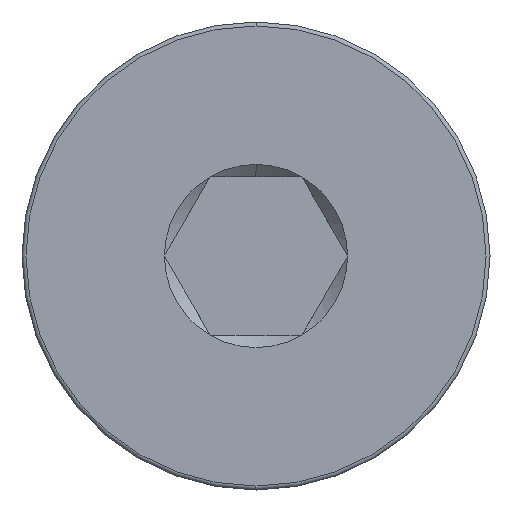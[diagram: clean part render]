
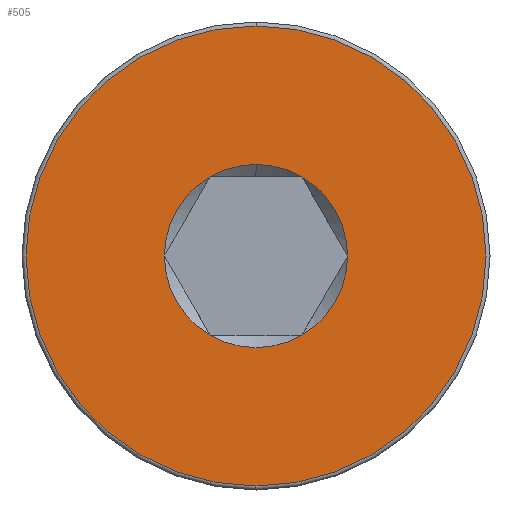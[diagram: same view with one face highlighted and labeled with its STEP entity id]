
A CAD part, left-side view. The second image highlights one B-rep face of the part: STEP entity #505.
In plain terms, the highlighted planar face has unit normal (-1, 0, 0).
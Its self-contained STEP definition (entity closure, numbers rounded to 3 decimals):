
#13 = EDGE_LOOP ( 'NONE', ( #664, #515 ) ) ;
#14 = CARTESIAN_POINT ( 'NONE',  ( 0., -2.309, 0. ) ) ;
#21 = EDGE_CURVE ( 'NONE', #767, #210, #341, .T. ) ;
#22 = VERTEX_POINT ( 'NONE', #282 ) ;
#34 = CARTESIAN_POINT ( 'NONE',  ( 0., 0., 0. ) ) ;
#44 = DIRECTION ( 'NONE',  ( 1., 0., 0. ) ) ;
#51 = AXIS2_PLACEMENT_3D ( 'NONE', #178, #293, #683 ) ;
#54 = ORIENTED_EDGE ( 'NONE', *, *, #604, .T. ) ;
#61 = CARTESIAN_POINT ( 'NONE',  ( 0., 0., 0. ) ) ;
#65 = AXIS2_PLACEMENT_3D ( 'NONE', #34, #84, #325 ) ;
#70 = EDGE_LOOP ( 'NONE', ( #694, #526, #54, #179, #346, #684, #312 ) ) ;
#79 = CARTESIAN_POINT ( 'NONE',  ( 0., 0., 0. ) ) ;
#84 = DIRECTION ( 'NONE',  ( -1., 0., 0. ) ) ;
#107 = DIRECTION ( 'NONE',  ( 0., 0., -1. ) ) ;
#115 = DIRECTION ( 'NONE',  ( 1., 0., 0. ) ) ;
#120 = DIRECTION ( 'NONE',  ( 0., 0., -1. ) ) ;
#173 = DIRECTION ( 'NONE',  ( 0., 0., 1. ) ) ;
#178 = CARTESIAN_POINT ( 'NONE',  ( 0., 0., 0. ) ) ;
#179 = ORIENTED_EDGE ( 'NONE', *, *, #433, .T. ) ;
#199 = PLANE ( 'NONE',  #770 ) ;
#210 = VERTEX_POINT ( 'NONE', #253 ) ;
#216 = VERTEX_POINT ( 'NONE', #534 ) ;
#250 = VERTEX_POINT ( 'NONE', #340 ) ;
#252 = FACE_BOUND ( 'NONE', #70, .T. ) ;
#253 = CARTESIAN_POINT ( 'NONE',  ( 0., 0., 2.309 ) ) ;
#282 = CARTESIAN_POINT ( 'NONE',  ( 0., -1.155, -2. ) ) ;
#285 = EDGE_CURVE ( 'NONE', #650, #216, #678, .T. ) ;
#288 = CARTESIAN_POINT ( 'NONE',  ( 0., 0., 5.8 ) ) ;
#293 = DIRECTION ( 'NONE',  ( 1., 0., 0. ) ) ;
#312 = ORIENTED_EDGE ( 'NONE', *, *, #743, .T. ) ;
#315 = DIRECTION ( 'NONE',  ( 0., 0., -1. ) ) ;
#318 = AXIS2_PLACEMENT_3D ( 'NONE', #538, #788, #173 ) ;
#325 = DIRECTION ( 'NONE',  ( 0., 0., 1. ) ) ;
#329 = FACE_OUTER_BOUND ( 'NONE', #13, .T. ) ;
#333 = EDGE_CURVE ( 'NONE', #22, #250, #621, .T. ) ;
#340 = CARTESIAN_POINT ( 'NONE',  ( 0., 1.155, -2. ) ) ;
#341 = CIRCLE ( 'NONE', #343, 2.309 ) ;
#343 = AXIS2_PLACEMENT_3D ( 'NONE', #409, #44, #107 ) ;
#346 = ORIENTED_EDGE ( 'NONE', *, *, #682, .T. ) ;
#350 = EDGE_CURVE ( 'NONE', #775, #767, #587, .T. ) ;
#356 = DIRECTION ( 'NONE',  ( 0., 0., -1. ) ) ;
#359 = AXIS2_PLACEMENT_3D ( 'NONE', #734, #595, #120 ) ;
#401 = CIRCLE ( 'NONE', #51, 2.309 ) ;
#409 = CARTESIAN_POINT ( 'NONE',  ( 0., 0., 0. ) ) ;
#410 = CIRCLE ( 'NONE', #65, 5.8 ) ;
#424 = VERTEX_POINT ( 'NONE', #14 ) ;
#432 = AXIS2_PLACEMENT_3D ( 'NONE', #61, #553, #557 ) ;
#433 = EDGE_CURVE ( 'NONE', #496, #424, #401, .T. ) ;
#446 = CARTESIAN_POINT ( 'NONE',  ( 0., -1.155, 2. ) ) ;
#449 = AXIS2_PLACEMENT_3D ( 'NONE', #481, #115, #356 ) ;
#481 = CARTESIAN_POINT ( 'NONE',  ( 0., 0., 0. ) ) ;
#483 = CARTESIAN_POINT ( 'NONE',  ( 0., 2.309, 0. ) ) ;
#496 = VERTEX_POINT ( 'NONE', #446 ) ;
#502 = CIRCLE ( 'NONE', #432, 2.309 ) ;
#505 = ADVANCED_FACE ( 'NONE', ( #329, #252 ), #199, .T. ) ;
#515 = ORIENTED_EDGE ( 'NONE', *, *, #532, .T. ) ;
#526 = ORIENTED_EDGE ( 'NONE', *, *, #21, .T. ) ;
#532 = EDGE_CURVE ( 'NONE', #216, #650, #410, .T. ) ;
#533 = CARTESIAN_POINT ( 'NONE',  ( 0., 0., 0. ) ) ;
#534 = CARTESIAN_POINT ( 'NONE',  ( 0., 0., -5.8 ) ) ;
#538 = CARTESIAN_POINT ( 'NONE',  ( 0., 0., 0. ) ) ;
#542 = AXIS2_PLACEMENT_3D ( 'NONE', #574, #648, #315 ) ;
#549 = CARTESIAN_POINT ( 'NONE',  ( 0., 1.155, 2. ) ) ;
#553 = DIRECTION ( 'NONE',  ( 1., 0., 0. ) ) ;
#557 = DIRECTION ( 'NONE',  ( 0., 0., -1. ) ) ;
#568 = CIRCLE ( 'NONE', #741, 2.309 ) ;
#574 = CARTESIAN_POINT ( 'NONE',  ( 0., 0., 0. ) ) ;
#584 = DIRECTION ( 'NONE',  ( -1., 0., 0. ) ) ;
#587 = CIRCLE ( 'NONE', #359, 2.309 ) ;
#588 = DIRECTION ( 'NONE',  ( 0., 0., 1. ) ) ;
#595 = DIRECTION ( 'NONE',  ( 1., 0., 0. ) ) ;
#604 = EDGE_CURVE ( 'NONE', #210, #496, #699, .T. ) ;
#621 = CIRCLE ( 'NONE', #449, 2.309 ) ;
#648 = DIRECTION ( 'NONE',  ( 1., 0., 0. ) ) ;
#650 = VERTEX_POINT ( 'NONE', #288 ) ;
#664 = ORIENTED_EDGE ( 'NONE', *, *, #285, .T. ) ;
#678 = CIRCLE ( 'NONE', #318, 5.8 ) ;
#682 = EDGE_CURVE ( 'NONE', #424, #22, #568, .T. ) ;
#683 = DIRECTION ( 'NONE',  ( 0., 0., -1. ) ) ;
#684 = ORIENTED_EDGE ( 'NONE', *, *, #333, .T. ) ;
#694 = ORIENTED_EDGE ( 'NONE', *, *, #350, .T. ) ;
#699 = CIRCLE ( 'NONE', #542, 2.309 ) ;
#713 = DIRECTION ( 'NONE',  ( 1., 0., 0. ) ) ;
#725 = DIRECTION ( 'NONE',  ( 0., 0., -1. ) ) ;
#734 = CARTESIAN_POINT ( 'NONE',  ( 0., 0., 0. ) ) ;
#741 = AXIS2_PLACEMENT_3D ( 'NONE', #533, #713, #725 ) ;
#743 = EDGE_CURVE ( 'NONE', #250, #775, #502, .T. ) ;
#767 = VERTEX_POINT ( 'NONE', #549 ) ;
#770 = AXIS2_PLACEMENT_3D ( 'NONE', #79, #584, #588 ) ;
#775 = VERTEX_POINT ( 'NONE', #483 ) ;
#788 = DIRECTION ( 'NONE',  ( -1., 0., 0. ) ) ;
